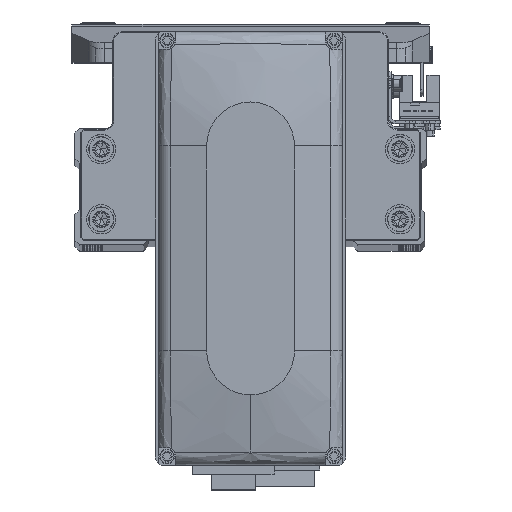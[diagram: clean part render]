
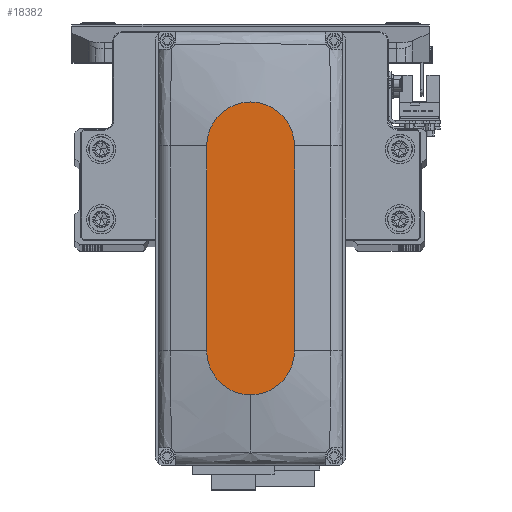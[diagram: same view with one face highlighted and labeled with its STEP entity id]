
A CAD part, top view. The second image highlights one B-rep face of the part: STEP entity #18382.
In plain terms, the highlighted planar face has unit normal (0, 0, 1).
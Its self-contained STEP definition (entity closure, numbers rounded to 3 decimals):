
#1244 = VERTEX_POINT ( 'NONE', #20782 ) ;
#1270 = DIRECTION ( 'NONE',  ( 1., 0., 0. ) ) ;
#1373 = DIRECTION ( 'NONE',  ( 0., 0., 1. ) ) ;
#1413 = LINE ( 'NONE', #16686, #3947 ) ;
#2815 = CIRCLE ( 'NONE', #30848, 15. ) ;
#3947 = VECTOR ( 'NONE', #31972, 1000. ) ;
#4063 = EDGE_CURVE ( 'NONE', #19211, #9414, #31222, .T. ) ;
#4441 = CARTESIAN_POINT ( 'NONE',  ( -35., 15., 35. ) ) ;
#6806 = DIRECTION ( 'NONE',  ( 0., 0., 1. ) ) ;
#6829 = EDGE_CURVE ( 'NONE', #9414, #1244, #17565, .T. ) ;
#7575 = CARTESIAN_POINT ( 'NONE',  ( 35., 0., 35. ) ) ;
#7868 = CARTESIAN_POINT ( 'NONE',  ( 0., 0., 35. ) ) ;
#9414 = VERTEX_POINT ( 'NONE', #43027 ) ;
#9485 = ORIENTED_EDGE ( 'NONE', *, *, #6829, .T. ) ;
#10681 = ORIENTED_EDGE ( 'NONE', *, *, #28455, .T. ) ;
#13402 = ORIENTED_EDGE ( 'NONE', *, *, #25427, .T. ) ;
#16017 = AXIS2_PLACEMENT_3D ( 'NONE', #41151, #6806, #22115 ) ;
#16643 = DIRECTION ( 'NONE',  ( 1., 0., 0. ) ) ;
#16686 = CARTESIAN_POINT ( 'NONE',  ( -35., 15., 35. ) ) ;
#17565 = CIRCLE ( 'NONE', #45559, 15. ) ;
#18382 = ADVANCED_FACE ( 'NONE', ( #26938 ), #42209, .T. ) ;
#19211 = VERTEX_POINT ( 'NONE', #33736 ) ;
#20314 = LINE ( 'NONE', #35606, #21423 ) ;
#20782 = CARTESIAN_POINT ( 'NONE',  ( 35., 15., 35. ) ) ;
#21423 = VECTOR ( 'NONE', #1270, 1000. ) ;
#22115 = DIRECTION ( 'NONE',  ( 1., 0., 0. ) ) ;
#22182 = ORIENTED_EDGE ( 'NONE', *, *, #35270, .T. ) ;
#22885 = DIRECTION ( 'NONE',  ( 0., 0., 1. ) ) ;
#23062 = VERTEX_POINT ( 'NONE', #33558 ) ;
#23178 = DIRECTION ( 'NONE',  ( 0., 0., 1. ) ) ;
#25427 = EDGE_CURVE ( 'NONE', #23062, #19211, #20314, .T. ) ;
#26938 = FACE_OUTER_BOUND ( 'NONE', #45763, .T. ) ;
#28455 = EDGE_CURVE ( 'NONE', #1244, #37859, #1413, .T. ) ;
#30848 = AXIS2_PLACEMENT_3D ( 'NONE', #35717, #1373, #16643 ) ;
#31222 = CIRCLE ( 'NONE', #16017, 15. ) ;
#31972 = DIRECTION ( 'NONE',  ( -1., 0., 0. ) ) ;
#33558 = CARTESIAN_POINT ( 'NONE',  ( -35., -15., 35. ) ) ;
#33736 = CARTESIAN_POINT ( 'NONE',  ( 35., -15., 35. ) ) ;
#33799 = AXIS2_PLACEMENT_3D ( 'NONE', #7868, #23178, #38447 ) ;
#35270 = EDGE_CURVE ( 'NONE', #37859, #23062, #2815, .T. ) ;
#35606 = CARTESIAN_POINT ( 'NONE',  ( -35., -15., 35. ) ) ;
#35717 = CARTESIAN_POINT ( 'NONE',  ( -35., 0., 35. ) ) ;
#37859 = VERTEX_POINT ( 'NONE', #4441 ) ;
#38146 = DIRECTION ( 'NONE',  ( 1., 0., 0. ) ) ;
#38447 = DIRECTION ( 'NONE',  ( 1., 0., 0. ) ) ;
#41151 = CARTESIAN_POINT ( 'NONE',  ( 35., 0., 35. ) ) ;
#42209 = PLANE ( 'NONE',  #33799 ) ;
#43027 = CARTESIAN_POINT ( 'NONE',  ( 50., 0., 35. ) ) ;
#45559 = AXIS2_PLACEMENT_3D ( 'NONE', #7575, #22885, #38146 ) ;
#45763 = EDGE_LOOP ( 'NONE', ( #10681, #22182, #13402, #46078, #9485 ) ) ;
#46078 = ORIENTED_EDGE ( 'NONE', *, *, #4063, .T. ) ;
